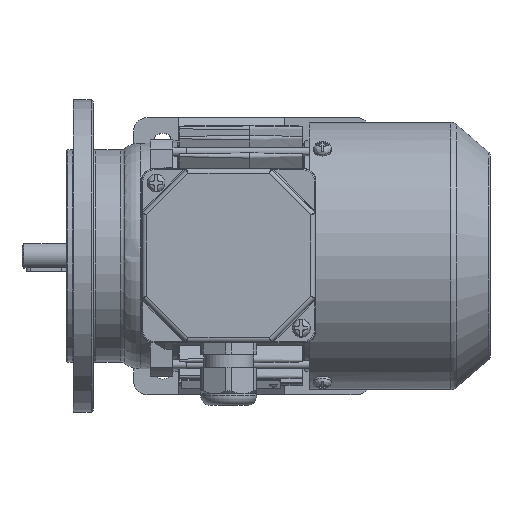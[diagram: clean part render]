
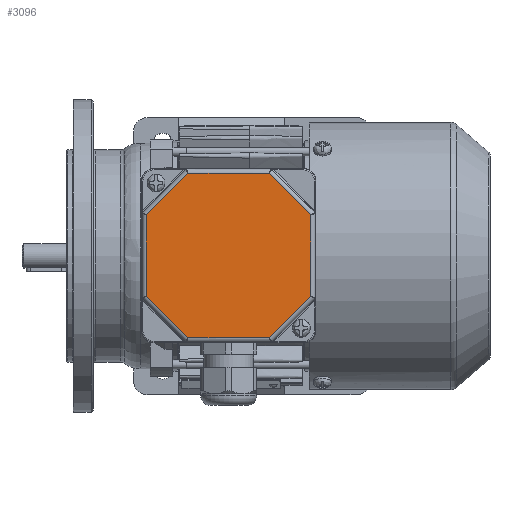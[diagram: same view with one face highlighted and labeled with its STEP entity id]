
A CAD part, top view. The second image highlights one B-rep face of the part: STEP entity #3096.
In plain terms, the highlighted planar face has unit normal (0, 0, 1).
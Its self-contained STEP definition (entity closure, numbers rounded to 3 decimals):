
#3096 = ADVANCED_FACE( '', ( #7076 ), #7077, .T. );
#7076 = FACE_OUTER_BOUND( '', #13929, .T. );
#7077 = PLANE( '', #13930 );
#13929 = EDGE_LOOP( '', ( #28800, #28801, #28802, #28803, #28804, #28805, #28806, #28807 ) );
#13930 = AXIS2_PLACEMENT_3D( '', #28808, #28809, #28810 );
#28800 = ORIENTED_EDGE( '', *, *, #43341, .T. );
#28801 = ORIENTED_EDGE( '', *, *, #43215, .T. );
#28802 = ORIENTED_EDGE( '', *, *, #43342, .T. );
#28803 = ORIENTED_EDGE( '', *, *, #43343, .T. );
#28804 = ORIENTED_EDGE( '', *, *, #43344, .T. );
#28805 = ORIENTED_EDGE( '', *, *, #43345, .T. );
#28806 = ORIENTED_EDGE( '', *, *, #43346, .T. );
#28807 = ORIENTED_EDGE( '', *, *, #43347, .T. );
#28808 = CARTESIAN_POINT( '', ( -39., 39., 12. ) );
#28809 = DIRECTION( '', ( 0., 0., 1. ) );
#28810 = DIRECTION( '', ( 1., 0., 0. ) );
#43215 = EDGE_CURVE( '', #51370, #51652, #51653, .T. );
#43341 = EDGE_CURVE( '', #51846, #51370, #51847, .F. );
#43342 = EDGE_CURVE( '', #51652, #51848, #51849, .F. );
#43343 = EDGE_CURVE( '', #51848, #51850, #51851, .T. );
#43344 = EDGE_CURVE( '', #51850, #51852, #51853, .F. );
#43345 = EDGE_CURVE( '', #51852, #50372, #51854, .T. );
#43346 = EDGE_CURVE( '', #50372, #51855, #51856, .F. );
#43347 = EDGE_CURVE( '', #51855, #51846, #51857, .T. );
#50372 = VERTEX_POINT( '', #61209 );
#51370 = VERTEX_POINT( '', #63203 );
#51652 = VERTEX_POINT( '', #63985 );
#51653 = LINE( '', #63986, #63987 );
#51846 = VERTEX_POINT( '', #64306 );
#51847 = LINE( '', #64307, #64308 );
#51848 = VERTEX_POINT( '', #64309 );
#51849 = LINE( '', #64310, #64311 );
#51850 = VERTEX_POINT( '', #64312 );
#51851 = LINE( '', #64313, #64314 );
#51852 = VERTEX_POINT( '', #64315 );
#51853 = LINE( '', #64316, #64317 );
#51854 = LINE( '', #64318, #64319 );
#51855 = VERTEX_POINT( '', #64320 );
#51856 = LINE( '', #64321, #64322 );
#51857 = LINE( '', #64323, #64324 );
#61209 = CARTESIAN_POINT( '', ( -18.255, -36.825, 12. ) );
#63203 = CARTESIAN_POINT( '', ( 36.825, 18.255, 12. ) );
#63985 = CARTESIAN_POINT( '', ( 18.255, 36.825, 12. ) );
#63986 = CARTESIAN_POINT( '', ( 17.679, 37.401, 12. ) );
#63987 = VECTOR( '', #79134, 1000. );
#64306 = CARTESIAN_POINT( '', ( 36.825, -18.255, 12. ) );
#64307 = CARTESIAN_POINT( '', ( 36.825, 19.069, 12. ) );
#64308 = VECTOR( '', #79268, 1000. );
#64309 = CARTESIAN_POINT( '', ( -18.255, 36.825, 12. ) );
#64310 = CARTESIAN_POINT( '', ( -19.069, 36.825, 12. ) );
#64311 = VECTOR( '', #79269, 1000. );
#64312 = CARTESIAN_POINT( '', ( -36.825, 18.255, 12. ) );
#64313 = CARTESIAN_POINT( '', ( -37.401, 17.679, 12. ) );
#64314 = VECTOR( '', #79270, 1000. );
#64315 = CARTESIAN_POINT( '', ( -36.825, -18.255, 12. ) );
#64316 = CARTESIAN_POINT( '', ( -36.825, -19.069, 12. ) );
#64317 = VECTOR( '', #79271, 1000. );
#64318 = CARTESIAN_POINT( '', ( -17.679, -37.401, 12. ) );
#64319 = VECTOR( '', #79272, 1000. );
#64320 = CARTESIAN_POINT( '', ( 18.255, -36.825, 12. ) );
#64321 = CARTESIAN_POINT( '', ( 19.069, -36.825, 12. ) );
#64322 = VECTOR( '', #79273, 1000. );
#64323 = CARTESIAN_POINT( '', ( 37.401, -17.679, 12. ) );
#64324 = VECTOR( '', #79274, 1000. );
#79134 = DIRECTION( '', ( -0.707, 0.707, 0. ) );
#79268 = DIRECTION( '', ( 0., -1., 0. ) );
#79269 = DIRECTION( '', ( 1., 0., 0. ) );
#79270 = DIRECTION( '', ( -0.707, -0.707, 0. ) );
#79271 = DIRECTION( '', ( 0., 1., 0. ) );
#79272 = DIRECTION( '', ( 0.707, -0.707, 0. ) );
#79273 = DIRECTION( '', ( -1., 0., 0. ) );
#79274 = DIRECTION( '', ( 0.707, 0.707, 0. ) );
